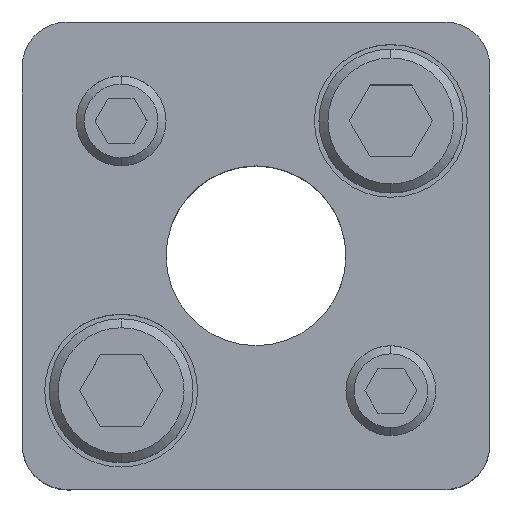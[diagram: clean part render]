
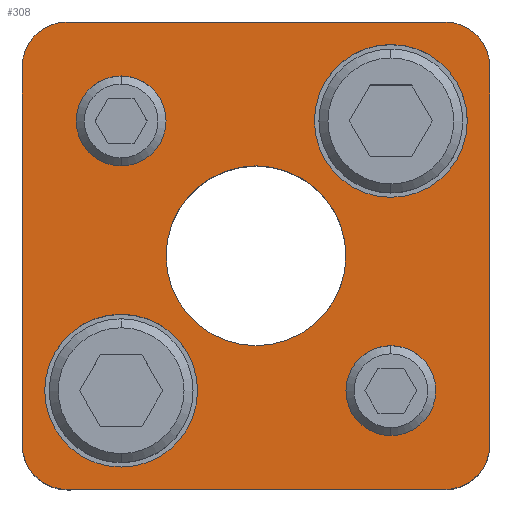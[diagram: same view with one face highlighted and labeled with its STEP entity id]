
A CAD part, top view. The second image highlights one B-rep face of the part: STEP entity #308.
In plain terms, the highlighted planar face has unit normal (0, 0, 1).
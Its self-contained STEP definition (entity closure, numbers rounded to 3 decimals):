
#165=PLANE('',#2567);
#228=FACE_BOUND('',#643,.T.);
#229=FACE_BOUND('',#644,.T.);
#230=FACE_BOUND('',#645,.T.);
#231=FACE_BOUND('',#646,.T.);
#232=FACE_BOUND('',#647,.T.);
#233=FACE_BOUND('',#648,.T.);
#308=ADVANCED_FACE('',(#228,#229,#230,#231,#232,#233),#165,.T.);
#643=EDGE_LOOP('',(#1335,#1336,#1337,#1338,#1339,#1340,#1341,#1342));
#644=EDGE_LOOP('',(#1343,#1344));
#645=EDGE_LOOP('',(#1345,#1346));
#646=EDGE_LOOP('',(#1347,#1348));
#647=EDGE_LOOP('',(#1349,#1350));
#648=EDGE_LOOP('',(#1351,#1352));
#806=LINE('',#3768,#988);
#807=LINE('',#3772,#989);
#808=LINE('',#3776,#990);
#809=LINE('',#3780,#991);
#988=VECTOR('',#3009,1.);
#989=VECTOR('',#3012,1.);
#990=VECTOR('',#3015,1.);
#991=VECTOR('',#3018,1.);
#1335=ORIENTED_EDGE('',*,*,#2102,.T.);
#1336=ORIENTED_EDGE('',*,*,#2103,.T.);
#1337=ORIENTED_EDGE('',*,*,#2104,.T.);
#1338=ORIENTED_EDGE('',*,*,#2105,.T.);
#1339=ORIENTED_EDGE('',*,*,#2106,.T.);
#1340=ORIENTED_EDGE('',*,*,#2107,.T.);
#1341=ORIENTED_EDGE('',*,*,#2108,.T.);
#1342=ORIENTED_EDGE('',*,*,#2109,.T.);
#1343=ORIENTED_EDGE('',*,*,#2110,.F.);
#1344=ORIENTED_EDGE('',*,*,#2111,.F.);
#1345=ORIENTED_EDGE('',*,*,#2112,.F.);
#1346=ORIENTED_EDGE('',*,*,#2113,.F.);
#1347=ORIENTED_EDGE('',*,*,#2088,.F.);
#1348=ORIENTED_EDGE('',*,*,#2084,.F.);
#1349=ORIENTED_EDGE('',*,*,#2082,.F.);
#1350=ORIENTED_EDGE('',*,*,#2078,.F.);
#1351=ORIENTED_EDGE('',*,*,#2114,.T.);
#1352=ORIENTED_EDGE('',*,*,#2115,.T.);
#1837=VERTEX_POINT('',#3716);
#1838=VERTEX_POINT('',#3717);
#1841=VERTEX_POINT('',#3729);
#1842=VERTEX_POINT('',#3730);
#1853=VERTEX_POINT('',#3766);
#1854=VERTEX_POINT('',#3767);
#1855=VERTEX_POINT('',#3769);
#1856=VERTEX_POINT('',#3771);
#1857=VERTEX_POINT('',#3773);
#1858=VERTEX_POINT('',#3775);
#1859=VERTEX_POINT('',#3777);
#1860=VERTEX_POINT('',#3779);
#1861=VERTEX_POINT('',#3782);
#1862=VERTEX_POINT('',#3783);
#1863=VERTEX_POINT('',#3786);
#1864=VERTEX_POINT('',#3787);
#1865=VERTEX_POINT('',#3790);
#1866=VERTEX_POINT('',#3791);
#2078=EDGE_CURVE('',#1837,#1838,#2355,.T.);
#2082=EDGE_CURVE('',#1838,#1837,#2357,.T.);
#2084=EDGE_CURVE('',#1841,#1842,#2359,.T.);
#2088=EDGE_CURVE('',#1842,#1841,#2361,.T.);
#2102=EDGE_CURVE('',#1853,#1854,#2371,.T.);
#2103=EDGE_CURVE('',#1854,#1855,#806,.T.);
#2104=EDGE_CURVE('',#1855,#1856,#2372,.T.);
#2105=EDGE_CURVE('',#1856,#1857,#807,.T.);
#2106=EDGE_CURVE('',#1857,#1858,#2373,.T.);
#2107=EDGE_CURVE('',#1858,#1859,#808,.T.);
#2108=EDGE_CURVE('',#1859,#1860,#2374,.T.);
#2109=EDGE_CURVE('',#1860,#1853,#809,.T.);
#2110=EDGE_CURVE('',#1861,#1862,#2375,.T.);
#2111=EDGE_CURVE('',#1862,#1861,#2376,.T.);
#2112=EDGE_CURVE('',#1863,#1864,#2377,.T.);
#2113=EDGE_CURVE('',#1864,#1863,#2378,.T.);
#2114=EDGE_CURVE('',#1865,#1866,#2379,.T.);
#2115=EDGE_CURVE('',#1866,#1865,#2380,.T.);
#2355=CIRCLE('',#2531,5.);
#2357=CIRCLE('',#2534,5.);
#2359=CIRCLE('',#2538,5.);
#2361=CIRCLE('',#2541,5.);
#2371=CIRCLE('',#2557,5.);
#2372=CIRCLE('',#2558,5.);
#2373=CIRCLE('',#2559,5.);
#2374=CIRCLE('',#2560,5.);
#2375=CIRCLE('',#2561,8.5);
#2376=CIRCLE('',#2562,8.5);
#2377=CIRCLE('',#2563,8.5);
#2378=CIRCLE('',#2564,8.5);
#2379=CIRCLE('',#2565,10.);
#2380=CIRCLE('',#2566,10.);
#2531=AXIS2_PLACEMENT_3D('',#3715,#2947,#2948);
#2534=AXIS2_PLACEMENT_3D('',#3724,#2955,#2956);
#2538=AXIS2_PLACEMENT_3D('',#3728,#2963,#2964);
#2541=AXIS2_PLACEMENT_3D('',#3737,#2971,#2972);
#2557=AXIS2_PLACEMENT_3D('',#3765,#3007,#3008);
#2558=AXIS2_PLACEMENT_3D('',#3770,#3010,#3011);
#2559=AXIS2_PLACEMENT_3D('',#3774,#3013,#3014);
#2560=AXIS2_PLACEMENT_3D('',#3778,#3016,#3017);
#2561=AXIS2_PLACEMENT_3D('',#3781,#3019,#3020);
#2562=AXIS2_PLACEMENT_3D('',#3784,#3021,#3022);
#2563=AXIS2_PLACEMENT_3D('',#3785,#3023,#3024);
#2564=AXIS2_PLACEMENT_3D('',#3788,#3025,#3026);
#2565=AXIS2_PLACEMENT_3D('',#3789,#3027,#3028);
#2566=AXIS2_PLACEMENT_3D('',#3792,#3029,#3030);
#2567=AXIS2_PLACEMENT_3D('',#3793,#3031,#3032);
#2947=DIRECTION('',(0.,0.,1.));
#2948=DIRECTION('',(-1.,0.,0.));
#2955=DIRECTION('',(0.,0.,1.));
#2956=DIRECTION('',(1.,0.,0.));
#2963=DIRECTION('',(0.,0.,1.));
#2964=DIRECTION('',(-1.,0.,0.));
#2971=DIRECTION('',(0.,0.,1.));
#2972=DIRECTION('',(1.,0.,0.));
#3007=DIRECTION('',(0.,0.,1.));
#3008=DIRECTION('',(-0.707,0.707,0.));
#3009=DIRECTION('',(0.,1.,0.));
#3010=DIRECTION('',(0.,0.,1.));
#3011=DIRECTION('',(-0.707,-0.707,0.));
#3012=DIRECTION('',(-1.,0.,0.));
#3013=DIRECTION('',(0.,0.,1.));
#3014=DIRECTION('',(0.707,-0.707,0.));
#3015=DIRECTION('',(0.,-1.,0.));
#3016=DIRECTION('',(0.,0.,1.));
#3017=DIRECTION('',(0.707,0.707,0.));
#3018=DIRECTION('',(1.,0.,0.));
#3019=DIRECTION('',(0.,0.,1.));
#3020=DIRECTION('',(1.,0.,0.));
#3021=DIRECTION('',(0.,0.,1.));
#3022=DIRECTION('',(-1.,0.,0.));
#3023=DIRECTION('',(0.,0.,1.));
#3024=DIRECTION('',(1.,0.,0.));
#3025=DIRECTION('',(0.,0.,1.));
#3026=DIRECTION('',(-1.,0.,0.));
#3027=DIRECTION('',(0.,0.,-1.));
#3028=DIRECTION('',(-1.,0.,0.));
#3029=DIRECTION('',(0.,0.,-1.));
#3030=DIRECTION('',(1.,0.,0.));
#3031=DIRECTION('',(0.,0.,1.));
#3032=DIRECTION('',(-1.,0.,0.));
#3715=CARTESIAN_POINT('',(15.,-15.,30.));
#3716=CARTESIAN_POINT('',(15.,-20.,30.));
#3717=CARTESIAN_POINT('',(15.,-10.,30.));
#3724=CARTESIAN_POINT('',(15.,-15.,30.));
#3728=CARTESIAN_POINT('',(-15.,15.,30.));
#3729=CARTESIAN_POINT('',(-15.,10.,30.));
#3730=CARTESIAN_POINT('',(-15.,20.,30.));
#3737=CARTESIAN_POINT('',(-15.,15.,30.));
#3765=CARTESIAN_POINT('',(21.,-21.,30.));
#3766=CARTESIAN_POINT('',(21.,-26.,30.));
#3767=CARTESIAN_POINT('',(26.,-21.,30.));
#3768=CARTESIAN_POINT('',(26.,21.,30.));
#3769=CARTESIAN_POINT('',(26.,21.,30.));
#3770=CARTESIAN_POINT('',(21.,21.,30.));
#3771=CARTESIAN_POINT('',(21.,26.,30.));
#3772=CARTESIAN_POINT('',(-21.,26.,30.));
#3773=CARTESIAN_POINT('',(-21.,26.,30.));
#3774=CARTESIAN_POINT('',(-21.,21.,30.));
#3775=CARTESIAN_POINT('',(-26.,21.,30.));
#3776=CARTESIAN_POINT('',(-26.,21.,30.));
#3777=CARTESIAN_POINT('',(-26.,-21.,30.));
#3778=CARTESIAN_POINT('',(-21.,-21.,30.));
#3779=CARTESIAN_POINT('',(-21.,-26.,30.));
#3780=CARTESIAN_POINT('',(-21.,-26.,30.));
#3781=CARTESIAN_POINT('',(15.,15.,30.));
#3782=CARTESIAN_POINT('',(15.,23.5,30.));
#3783=CARTESIAN_POINT('',(15.,6.5,30.));
#3784=CARTESIAN_POINT('',(15.,15.,30.));
#3785=CARTESIAN_POINT('',(-15.,-15.,30.));
#3786=CARTESIAN_POINT('',(-15.,-6.5,30.));
#3787=CARTESIAN_POINT('',(-15.,-23.5,30.));
#3788=CARTESIAN_POINT('',(-15.,-15.,30.));
#3789=CARTESIAN_POINT('',(0.,0.,30.));
#3790=CARTESIAN_POINT('',(0.,10.,30.));
#3791=CARTESIAN_POINT('',(0.,-10.,30.));
#3792=CARTESIAN_POINT('',(0.,0.,30.));
#3793=CARTESIAN_POINT('',(21.,-26.,30.));
